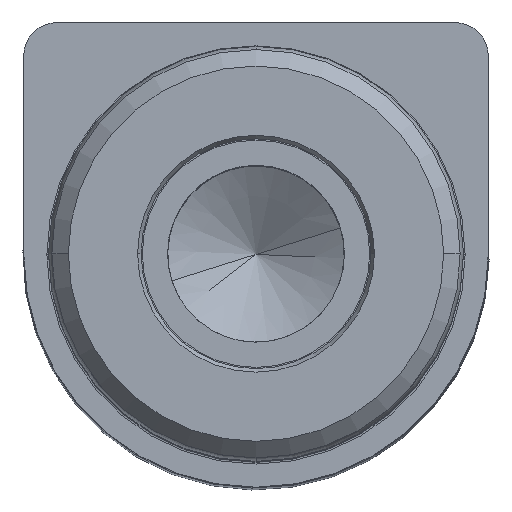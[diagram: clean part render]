
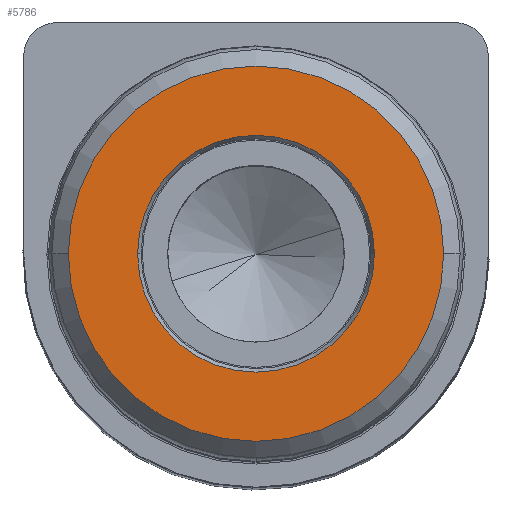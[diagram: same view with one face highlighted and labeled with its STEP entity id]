
A CAD part, top view. The second image highlights one B-rep face of the part: STEP entity #5786.
In plain terms, the highlighted planar face has unit normal (0, 0, 1).
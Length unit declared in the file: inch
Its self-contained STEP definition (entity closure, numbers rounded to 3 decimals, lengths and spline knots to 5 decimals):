
#66 = EDGE_CURVE ( 'NONE', #5518, #3370, #3299, .T. ) ;
#105 = ORIENTED_EDGE ( 'NONE', *, *, #4328, .T. ) ;
#120 = CARTESIAN_POINT ( 'NONE',  ( 0., 0., 0.444 ) ) ;
#490 = DIRECTION ( 'NONE',  ( 0., 0., 1. ) ) ;
#569 = PLANE ( 'NONE',  #4098 ) ;
#874 = CARTESIAN_POINT ( 'NONE',  ( 0., 0., 0.444 ) ) ;
#1142 = CARTESIAN_POINT ( 'NONE',  ( -0.07164, 0., 0.444 ) ) ;
#1290 = ORIENTED_EDGE ( 'NONE', *, *, #66, .T. ) ;
#1321 = DIRECTION ( 'NONE',  ( 0., 0., -1. ) ) ;
#1462 = FACE_BOUND ( 'NONE', #3888, .T. ) ;
#1661 = VERTEX_POINT ( 'NONE', #3760 ) ;
#1878 = AXIS2_PLACEMENT_3D ( 'NONE', #874, #490, #1938 ) ;
#1938 = DIRECTION ( 'NONE',  ( 1., 0., 0. ) ) ;
#2025 = DIRECTION ( 'NONE',  ( 1., 0., 0. ) ) ;
#2034 = DIRECTION ( 'NONE',  ( 1., 0., 0. ) ) ;
#2170 = EDGE_LOOP ( 'NONE', ( #105, #4296 ) ) ;
#2361 = CIRCLE ( 'NONE', #5628, 0.1135 ) ;
#2461 = CARTESIAN_POINT ( 'NONE',  ( -0.1135, 0., 0.444 ) ) ;
#2511 = DIRECTION ( 'NONE',  ( 0., 0., 1. ) ) ;
#2514 = VERTEX_POINT ( 'NONE', #2461 ) ;
#2614 = DIRECTION ( 'NONE',  ( 0., 0., 1. ) ) ;
#2719 = EDGE_CURVE ( 'NONE', #3370, #5518, #4652, .T. ) ;
#3015 = CARTESIAN_POINT ( 'NONE',  ( 0., 0., 0.444 ) ) ;
#3109 = CARTESIAN_POINT ( 'NONE',  ( 0.07164, 0., 0.444 ) ) ;
#3299 = CIRCLE ( 'NONE', #4225, 0.07164 ) ;
#3370 = VERTEX_POINT ( 'NONE', #3109 ) ;
#3477 = CARTESIAN_POINT ( 'NONE',  ( 0., 0., 0.444 ) ) ;
#3643 = CARTESIAN_POINT ( 'NONE',  ( 0., 0., 0.444 ) ) ;
#3760 = CARTESIAN_POINT ( 'NONE',  ( 0.1135, 0., 0.444 ) ) ;
#3888 = EDGE_LOOP ( 'NONE', ( #5658, #1290 ) ) ;
#4098 = AXIS2_PLACEMENT_3D ( 'NONE', #120, #2511, #2025 ) ;
#4155 = EDGE_CURVE ( 'NONE', #1661, #2514, #2361, .T. ) ;
#4225 = AXIS2_PLACEMENT_3D ( 'NONE', #3015, #4549, #5925 ) ;
#4296 = ORIENTED_EDGE ( 'NONE', *, *, #4155, .T. ) ;
#4328 = EDGE_CURVE ( 'NONE', #2514, #1661, #4631, .T. ) ;
#4549 = DIRECTION ( 'NONE',  ( 0., 0., -1. ) ) ;
#4631 = CIRCLE ( 'NONE', #1878, 0.1135 ) ;
#4652 = CIRCLE ( 'NONE', #4859, 0.07164 ) ;
#4672 = DIRECTION ( 'NONE',  ( 1., 0., 0. ) ) ;
#4859 = AXIS2_PLACEMENT_3D ( 'NONE', #3643, #1321, #4672 ) ;
#5415 = FACE_OUTER_BOUND ( 'NONE', #2170, .T. ) ;
#5518 = VERTEX_POINT ( 'NONE', #1142 ) ;
#5628 = AXIS2_PLACEMENT_3D ( 'NONE', #3477, #2614, #2034 ) ;
#5658 = ORIENTED_EDGE ( 'NONE', *, *, #2719, .T. ) ;
#5786 = ADVANCED_FACE ( 'NONE', ( #1462, #5415 ), #569, .T. ) ;
#5925 = DIRECTION ( 'NONE',  ( 1., 0., 0. ) ) ;
